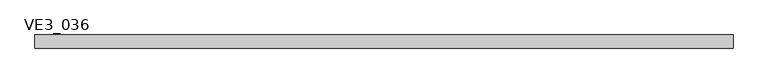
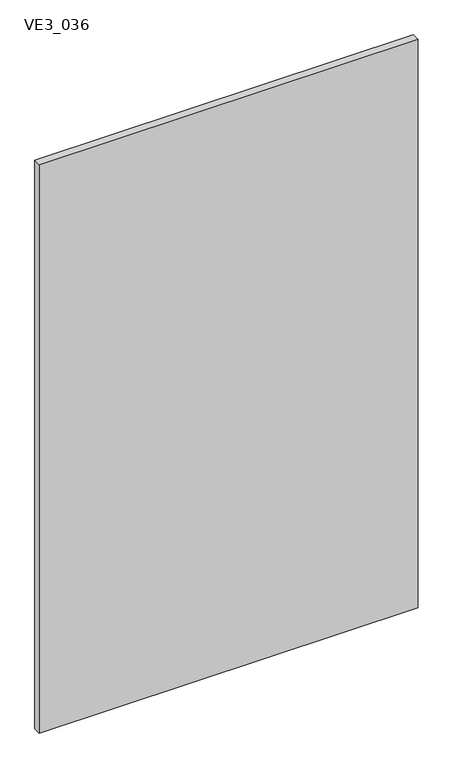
"""IFC4 building model written with IfcOpenShell, lengths in millimetres: plate geometry, TRP_CP_ARC_PF_RE_SE : VE3_036."""

from ifc_helpers import new_model, si_unit, frame, origin, place, context, project, spatial, polyline, outline, extrude, source, transform, mapped, element, save


def ve3_036_f7bfa5f0(model_context):
    return source(origin(), model_context, "Body", "SweptSolid", [
        extrude(outline(polyline([(925.0, 18.0), (925.0, -18.0), (-925.0, -18.0), (-925.0, 18.0), (925.0, 18.0)])), frame((0.0, 0.0, -3.1739529), z_axis=(0.0, 0.0, 1.0), x_axis=(1.0, 0.0, 0.0)), (0.0, 0.0, 1.0), 2933.1739529),
    ])


if __name__ == "__main__":
    model = new_model("IFC4")
    model_context = context("Model", 3, world=origin())
    ifc_project = project(units=[si_unit("LENGTHUNIT", "METRE", prefix="MILLI")], contexts=[model_context])
    site = spatial("IfcSite", under=ifc_project)
    building = spatial("IfcBuilding", under=site)
    placement = place(None, origin())
    ve3_036_shape = ve3_036_f7bfa5f0(model_context)
    element("IfcPlate", 1, ObjectType="TRP_CP_ARC_PF_RE_SE : VE3_036", at=placement, inside=building, context=model_context, shape_type="MappedRepresentation", body=[
        mapped(ve3_036_shape, transform((0.0, 0.0, 0.0), x_axis=(1.0, 0.0, 0.0), y_axis=(0.0, 1.0, 0.0), z_axis=(0.0, 0.0, 1.0))),
    ])
    save(model, "model.ifc")
